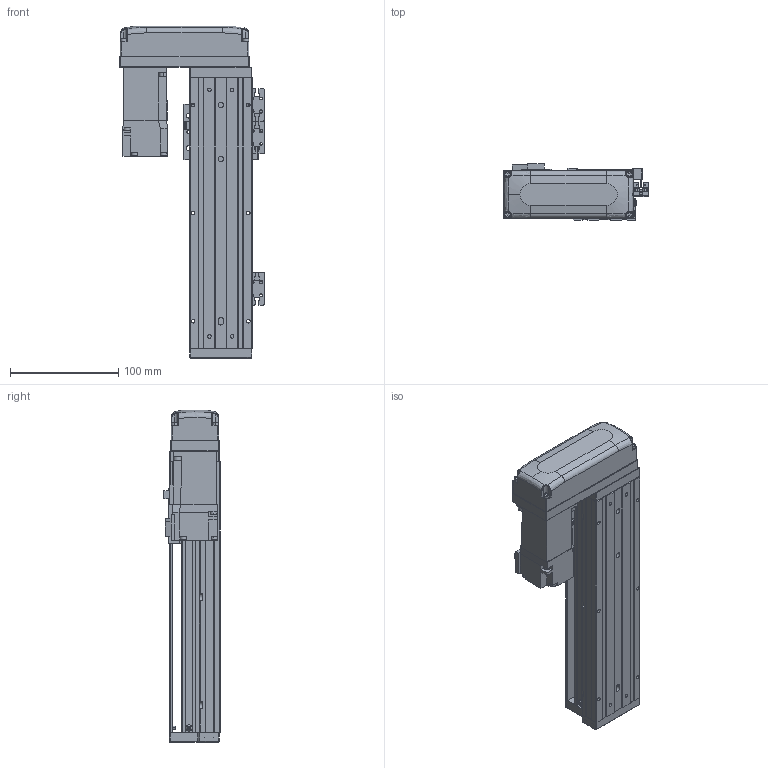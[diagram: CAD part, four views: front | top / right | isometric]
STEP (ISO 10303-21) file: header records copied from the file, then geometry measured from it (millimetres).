
FILE_DESCRIPTION (( 'STEP AP203' ), '1' );
FILE_NAME ('KTHA50-150-BR-M10-C4L.step', '2022-03-19T07:14:40', ( '微软用户' ), ( '微软中国' ), 'SwSTEP 2.0', 'SolidWorks 2020', '' );
FILE_SCHEMA (( 'CONFIG_CONTROL_DESIGN' ));
Length unit declared in the file: millimetre
Products named in the file (18): GB¨uT 70.2-M3¡Á6_M3¡Á6; CTHA60-021; EE_SX911P_R; GBT 70.3-M3℅6; GBT77-2000 M3×3; HG-KR13（三菱）; KTHA50-001_250; GBT 70.1-M3℅6; CTHA50-015-2_CTHA60-015-2; KTHA50-002; CTHA60-017; CTHA60-033; KTHA50-004; GBT 70.1-M4×12; GBT 70.1-M3×15; KTHA50-005; CTHA60-016; KTHA50-150-BR-M10-C4L
Assembly tree (53 placements, depth 2):
  KTHA50-150-BR-M10-C4L
    KTHA50-001_250
    KTHA50-002
    KTHA50-004
    KTHA50-005
    GB¨uT 70.2-M3¡Á6_M3¡Á6  x6
    EE_SX911P_R  x3
    GBT77-2000 M3×3  x6
    GBT 70.1-M3℅6  x6
    CTHA60-017  x3
    GBT 70.1-M4×12  x10
    CTHA60-016  x2
    CTHA60-021  x2
    GBT 70.3-M3℅6  x4
    HG-KR13（三菱）
    CTHA50-015-2_CTHA60-015-2
    CTHA60-033
    GBT 70.1-M3×15  x4
Bounding box: 133.82 x 52.3 x 307 mm (x, y, z)
Volume: 791613.1 mm3; surface area: 195622 mm2
Topology: 56 solids, 56 shells, 2203 faces, 5183 edges, 3172 vertices
Faces by surface type: plane 1228, cylinder 532, cone 301, torus 100, bspline 26, sphere 16
Entity records: 36297 total; most frequent: CARTESIAN_POINT 6898, DIRECTION 5635, ORIENTED_EDGE 5378, EDGE_CURVE 2689, AXIS2_PLACEMENT_3D 1925, LINE 1785, VECTOR 1785, VERTEX_POINT 1686
